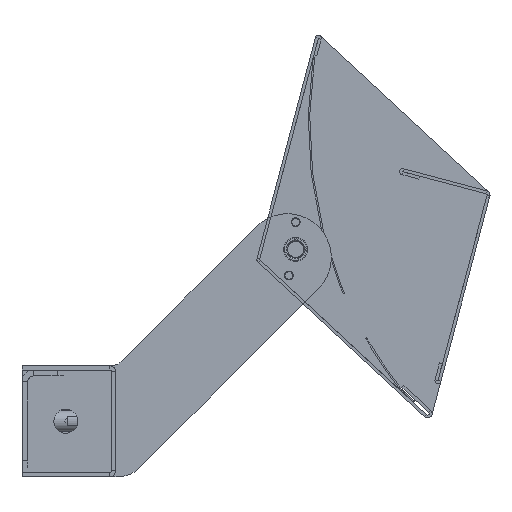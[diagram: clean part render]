
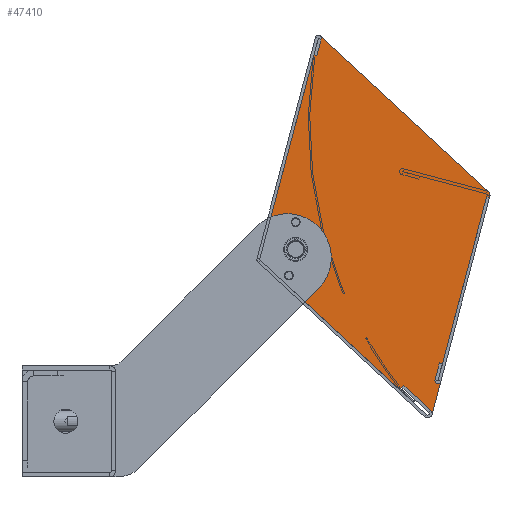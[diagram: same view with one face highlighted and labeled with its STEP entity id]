
A CAD part, left-side view. The second image highlights one B-rep face of the part: STEP entity #47410.
In plain terms, the highlighted planar face has unit normal (-1, 0, 0) as drawn and (0, 0, -1) by its records, which use the part's own axes.
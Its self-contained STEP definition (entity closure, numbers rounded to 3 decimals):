
#4802=FACE_BOUND('',#10068,.T.);
#4803=FACE_BOUND('',#10069,.T.);
#5057=PLANE('',#51508);
#7080=FACE_OUTER_BOUND('',#10067,.T.);
#10067=EDGE_LOOP('',(#35017,#35018,#35019,#35020,#35021,#35022,#35023,#35024,
#35025,#35026,#35027,#35028,#35029,#35030,#35031,#35032,#35033,#35034));
#10068=EDGE_LOOP('',(#35035));
#10069=EDGE_LOOP('',(#35036));
#13200=LINE('',#67163,#17931);
#13204=LINE('',#67175,#17935);
#13207=LINE('',#67181,#17938);
#13210=LINE('',#67188,#17941);
#13214=LINE('',#67196,#17945);
#13218=LINE('',#67208,#17949);
#13222=LINE('',#67220,#17953);
#13225=LINE('',#67226,#17956);
#13228=LINE('',#67232,#17959);
#13231=LINE('',#67238,#17962);
#13234=LINE('',#67243,#17965);
#13238=LINE('',#67250,#17969);
#13240=LINE('',#67257,#17971);
#17931=VECTOR('',#55788,10.);
#17935=VECTOR('',#55800,10.);
#17938=VECTOR('',#55805,10.);
#17941=VECTOR('',#55810,10.);
#17945=VECTOR('',#55816,10.);
#17949=VECTOR('',#55828,10.);
#17953=VECTOR('',#55840,10.);
#17956=VECTOR('',#55845,10.);
#17959=VECTOR('',#55850,10.);
#17962=VECTOR('',#55855,10.);
#17965=VECTOR('',#55860,10.);
#17969=VECTOR('',#55866,10.);
#17971=VECTOR('',#55874,10.);
#22431=CIRCLE('',#51474,1.5);
#22434=CIRCLE('',#51478,4.1);
#22435=CIRCLE('',#51480,1.5);
#22437=CIRCLE('',#51484,1.025);
#22439=CIRCLE('',#51491,1.5);
#22441=CIRCLE('',#51495,1.025);
#22444=CIRCLE('',#51507,0.5);
#23444=VERTEX_POINT('',#67141);
#23447=VERTEX_POINT('',#67149);
#23448=VERTEX_POINT('',#67153);
#23449=VERTEX_POINT('',#67154);
#23452=VERTEX_POINT('',#67162);
#23454=VERTEX_POINT('',#67168);
#23456=VERTEX_POINT('',#67174);
#23458=VERTEX_POINT('',#67180);
#23460=VERTEX_POINT('',#67186);
#23461=VERTEX_POINT('',#67187);
#23464=VERTEX_POINT('',#67195);
#23466=VERTEX_POINT('',#67201);
#23468=VERTEX_POINT('',#67207);
#23470=VERTEX_POINT('',#67213);
#23472=VERTEX_POINT('',#67219);
#23474=VERTEX_POINT('',#67225);
#23476=VERTEX_POINT('',#67231);
#23478=VERTEX_POINT('',#67237);
#23481=VERTEX_POINT('',#67248);
#23483=VERTEX_POINT('',#67256);
#27795=EDGE_CURVE('',#23444,#23444,#22431,.T.);
#27800=EDGE_CURVE('',#23447,#23447,#22434,.T.);
#27801=EDGE_CURVE('',#23448,#23449,#22435,.T.);
#27805=EDGE_CURVE('',#23449,#23452,#13200,.T.);
#27808=EDGE_CURVE('',#23452,#23454,#22437,.T.);
#27811=EDGE_CURVE('',#23454,#23456,#13204,.T.);
#27814=EDGE_CURVE('',#23456,#23458,#13207,.T.);
#27817=EDGE_CURVE('',#23460,#23461,#13210,.T.);
#27821=EDGE_CURVE('',#23461,#23464,#13214,.T.);
#27824=EDGE_CURVE('',#23464,#23466,#22439,.T.);
#27827=EDGE_CURVE('',#23466,#23468,#13218,.T.);
#27830=EDGE_CURVE('',#23468,#23470,#22441,.T.);
#27833=EDGE_CURVE('',#23470,#23472,#13222,.T.);
#27836=EDGE_CURVE('',#23472,#23474,#13225,.T.);
#27839=EDGE_CURVE('',#23474,#23476,#13228,.T.);
#27842=EDGE_CURVE('',#23476,#23478,#13231,.T.);
#27845=EDGE_CURVE('',#23478,#23448,#13234,.T.);
#27849=EDGE_CURVE('',#23481,#23458,#13238,.T.);
#27852=EDGE_CURVE('',#23460,#23483,#13240,.T.);
#27854=EDGE_CURVE('',#23483,#23481,#22444,.T.);
#35017=ORIENTED_EDGE('',*,*,#27814,.T.);
#35018=ORIENTED_EDGE('',*,*,#27849,.F.);
#35019=ORIENTED_EDGE('',*,*,#27854,.F.);
#35020=ORIENTED_EDGE('',*,*,#27852,.F.);
#35021=ORIENTED_EDGE('',*,*,#27817,.T.);
#35022=ORIENTED_EDGE('',*,*,#27821,.T.);
#35023=ORIENTED_EDGE('',*,*,#27824,.T.);
#35024=ORIENTED_EDGE('',*,*,#27827,.T.);
#35025=ORIENTED_EDGE('',*,*,#27830,.T.);
#35026=ORIENTED_EDGE('',*,*,#27833,.T.);
#35027=ORIENTED_EDGE('',*,*,#27836,.T.);
#35028=ORIENTED_EDGE('',*,*,#27839,.T.);
#35029=ORIENTED_EDGE('',*,*,#27842,.T.);
#35030=ORIENTED_EDGE('',*,*,#27845,.T.);
#35031=ORIENTED_EDGE('',*,*,#27801,.T.);
#35032=ORIENTED_EDGE('',*,*,#27805,.T.);
#35033=ORIENTED_EDGE('',*,*,#27808,.T.);
#35034=ORIENTED_EDGE('',*,*,#27811,.T.);
#35035=ORIENTED_EDGE('',*,*,#27795,.T.);
#35036=ORIENTED_EDGE('',*,*,#27800,.T.);
#47410=ADVANCED_FACE('',(#7080,#4802,#4803),#5057,.F.);
#51474=AXIS2_PLACEMENT_3D('',#67142,#55766,#55767);
#51478=AXIS2_PLACEMENT_3D('',#67151,#55776,#55777);
#51480=AXIS2_PLACEMENT_3D('',#67155,#55780,#55781);
#51484=AXIS2_PLACEMENT_3D('',#67169,#55793,#55794);
#51491=AXIS2_PLACEMENT_3D('',#67202,#55821,#55822);
#51495=AXIS2_PLACEMENT_3D('',#67214,#55833,#55834);
#51507=AXIS2_PLACEMENT_3D('',#67260,#55878,#55879);
#51508=AXIS2_PLACEMENT_3D('',#67261,#55880,#55881);
#55766=DIRECTION('center_axis',(0.,0.,1.));
#55767=DIRECTION('ref_axis',(1.,0.,0.));
#55776=DIRECTION('center_axis',(0.,0.,1.));
#55777=DIRECTION('ref_axis',(1.,0.,0.));
#55780=DIRECTION('center_axis',(0.,0.,-1.));
#55781=DIRECTION('ref_axis',(0.,-1.,0.));
#55788=DIRECTION('',(0.883,0.469,0.));
#55793=DIRECTION('center_axis',(0.,0.,1.));
#55794=DIRECTION('ref_axis',(1.,0.,0.));
#55800=DIRECTION('',(0.,-1.,0.));
#55805=DIRECTION('',(1.,0.,0.));
#55810=DIRECTION('',(-0.469,0.883,0.));
#55816=DIRECTION('',(-0.883,-0.469,0.));
#55821=DIRECTION('center_axis',(0.,0.,1.));
#55822=DIRECTION('ref_axis',(-0.469,0.883,0.));
#55828=DIRECTION('',(0.,1.,0.));
#55833=DIRECTION('center_axis',(0.,0.,1.));
#55834=DIRECTION('ref_axis',(-1.,0.,0.));
#55840=DIRECTION('',(0.,1.,0.));
#55845=DIRECTION('',(-1.,0.,0.));
#55850=DIRECTION('',(0.,1.,0.));
#55855=DIRECTION('',(-1.,0.,0.));
#55860=DIRECTION('',(0.,1.,0.));
#55866=DIRECTION('',(0.,1.,0.));
#55874=DIRECTION('',(0.883,0.469,0.));
#55878=DIRECTION('center_axis',(0.,0.,1.));
#55879=DIRECTION('ref_axis',(0.857,-0.515,0.));
#55880=DIRECTION('center_axis',(0.,0.,1.));
#55881=DIRECTION('ref_axis',(1.,0.,0.));
#67141=CARTESIAN_POINT('',(-12.5,-2.641,0.));
#67142=CARTESIAN_POINT('Origin',(-11.,-2.641,0.));
#67149=CARTESIAN_POINT('',(-15.1,6.609,0.));
#67151=CARTESIAN_POINT('Origin',(-11.,6.609,0.));
#67153=CARTESIAN_POINT('',(-70.516,41.153,0.));
#67154=CARTESIAN_POINT('',(-69.72,42.478,0.));
#67155=CARTESIAN_POINT('Origin',(-69.016,41.153,0.));
#67162=CARTESIAN_POINT('',(-0.506,79.279,0.));
#67163=CARTESIAN_POINT('',(-26.109,65.666,0.));
#67168=CARTESIAN_POINT('',(-1.05,78.374,0.));
#67169=CARTESIAN_POINT('Origin',(-0.025,78.374,0.));
#67174=CARTESIAN_POINT('',(-1.05,72.399,0.));
#67175=CARTESIAN_POINT('',(-1.05,46.81,0.));
#67180=CARTESIAN_POINT('',(0.,72.399,0.));
#67181=CARTESIAN_POINT('',(-17.659,72.399,0.));
#67186=CARTESIAN_POINT('',(-57.744,-30.703,0.));
#67187=CARTESIAN_POINT('',(-58.683,-28.937,0.));
#67188=CARTESIAN_POINT('',(-66.504,-14.228,0.));
#67195=CARTESIAN_POINT('',(-69.72,-34.806,0.));
#67196=CARTESIAN_POINT('',(-44.698,-21.501,0.));
#67201=CARTESIAN_POINT('',(-70.516,-36.13,0.));
#67202=CARTESIAN_POINT('Origin',(-69.016,-36.13,0.));
#67207=CARTESIAN_POINT('',(-70.516,-24.322,0.));
#67208=CARTESIAN_POINT('',(-70.516,-1.55,0.));
#67213=CARTESIAN_POINT('',(-68.466,-24.322,0.));
#67214=CARTESIAN_POINT('Origin',(-69.491,-24.322,0.));
#67219=CARTESIAN_POINT('',(-68.466,-18.347,0.));
#67220=CARTESIAN_POINT('',(-68.466,1.437,0.));
#67225=CARTESIAN_POINT('',(-69.516,-18.347,0.));
#67226=CARTESIAN_POINT('',(-52.417,-18.347,0.));
#67231=CARTESIAN_POINT('',(-69.516,40.653,0.));
#67232=CARTESIAN_POINT('',(-69.516,30.937,0.));
#67237=CARTESIAN_POINT('',(-70.516,40.653,0.));
#67238=CARTESIAN_POINT('',(-52.917,40.653,0.));
#67243=CARTESIAN_POINT('',(-70.516,31.187,0.));
#67248=CARTESIAN_POINT('',(0.,0.3,0.));
#67250=CARTESIAN_POINT('',(0.,0.,0.));
#67256=CARTESIAN_POINT('',(-0.265,-0.141,0.));
#67257=CARTESIAN_POINT('',(-70.636,-37.558,0.));
#67260=CARTESIAN_POINT('Origin',(-0.5,0.3,0.));
#67261=CARTESIAN_POINT('Origin',(-35.318,21.221,0.));
